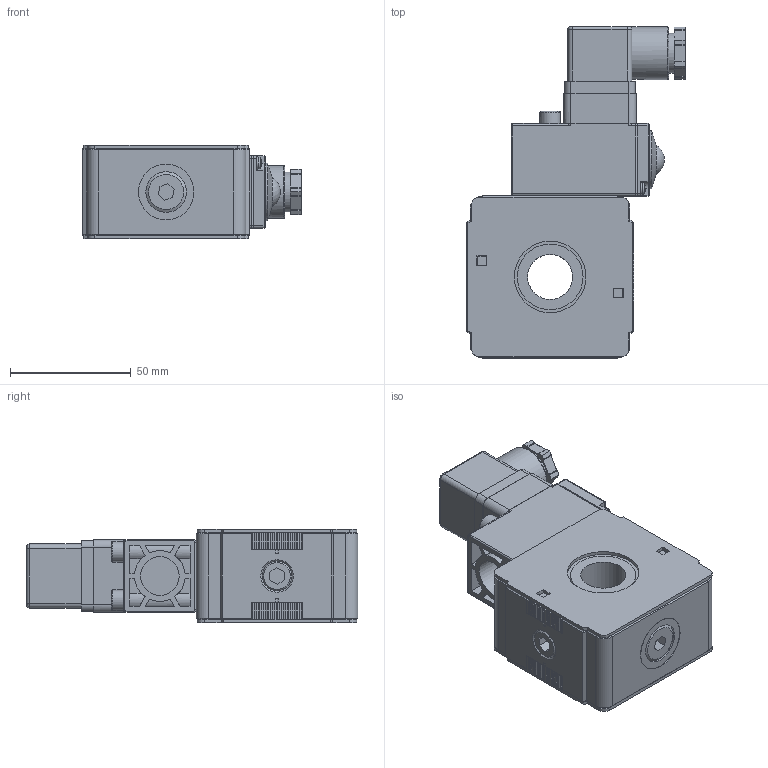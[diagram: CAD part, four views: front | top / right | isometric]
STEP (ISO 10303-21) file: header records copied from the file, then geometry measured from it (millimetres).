
FILE_DESCRIPTION((''),'2;1');
FILE_NAME('K:\ZEICHNG\Kunden Modelle\Multifix Steps\NL.4\Z.33 U.stp','2011-02-02T13:20:53',('DDruske'),(''),'Autodesk Inventor 2009','Autodesk Inventor 2009','');
FILE_SCHEMA(('AUTOMOTIVE_DESIGN { 1 0 10303 214 1 1 1 1 }'));
Length unit declared in the file: millimetre
Products named in the file (1): Bauteil3
Bounding box: 90.6 x 137.37 x 38.8 mm (x, y, z)
Volume: 228455.1 mm3; surface area: 55500.5 mm2
Topology: 1 solids, 9 shells, 809 faces, 2086 edges, 1319 vertices
Faces by surface type: plane 431, cylinder 205, cone 72, bspline 52, torus 45, sphere 4
Full cylindrical faces by diameter (mm): 5 x2, 5.3 x2, 5.9 x2, 7 x1, 8 x1, 8.5 x2, 12.5 x1, 13.6 x1, 16 x1, 16.5 x1, 21.8 x2, 23 x2, 24 x1, 27.2 x1, 27.3 x1, 29.4 x1, 29.6 x2
Entity records: 25876 total; most frequent: CARTESIAN_POINT 5764, ORIENTED_EDGE 4010, DIRECTION 3931, EDGE_CURVE 2005, AXIS2_PLACEMENT_3D 1344, VERTEX_POINT 1300, VECTOR 1243, LINE 1243
